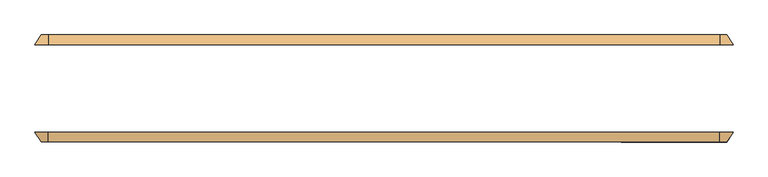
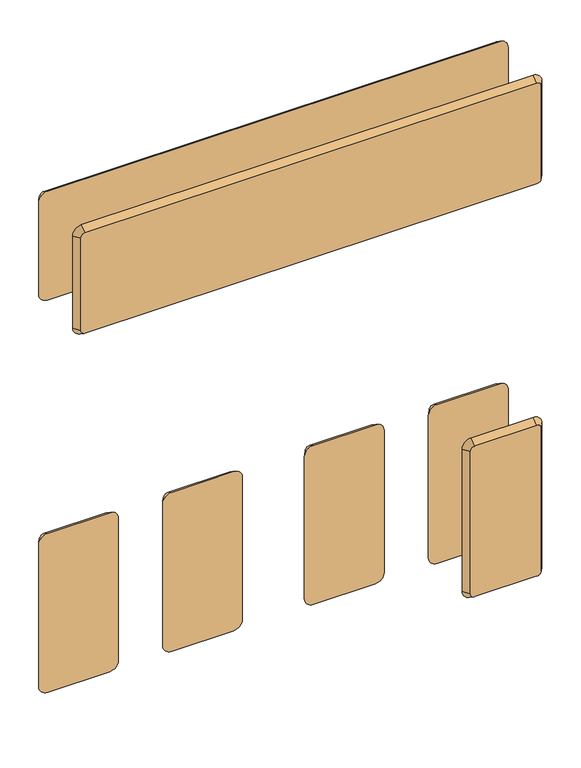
"""IFC4 building model written with IfcOpenShell, lengths in millimetres: door geometry, ETC Arabic Door : ETC Arabic Door."""

from ifc_helpers import new_model, si_unit, frame, origin, place, context, project, spatial, polyline, circle_curve, source, transform, mapped, element, save
from ifc_brep_helpers import plane_surface, revolved_surface, advanced_brep


def door_55d09108(model_context):
    return source(origin(), model_context, "Body", "AdvancedBrep", [
        advanced_brep(
        [(370.0, 25.0, 1175.0), (510.0, 25.0, 1175.0), (510.0, 10.0, 1185.0), (370.0, 10.0, 1185.0), (520.0, 10.0, 1195.0), (520.0, 10.0, 1535.0), (510.0, 10.0, 1545.0), (370.0, 10.0, 1545.0), (360.0, 10.0, 1535.0), (360.0, 10.0, 1195.0), (530.0, 25.0, 1195.0), (530.0, 25.0, 1535.0), (350.0, 25.0, 1535.0), (350.0, 25.0, 1195.0), (370.0, 25.0, 1555.0), (510.0, 25.0, 1555.0)],
        [
            (0, 1),
            (1, 2),
            (2, 3),
            (3, 0),
            (2, 4, circle_curve(frame((510.0, 10.0, 1195.0), z_axis=(0.0, -1.0, 0.0), x_axis=(0.0, 0.0, -1.0)), 10.0)),
            (4, 5),
            (5, 6, circle_curve(frame((510.0, 10.0, 1535.0), z_axis=(0.0, -1.0, 0.0), x_axis=(1.0, 0.0, 0.0)), 10.0)),
            (6, 7),
            (7, 8, circle_curve(frame((370.0, 10.0, 1535.0), z_axis=(0.0, -1.0, 0.0), x_axis=(0.0, 0.0, 1.0)), 10.0)),
            (8, 9),
            (9, 3, circle_curve(frame((370.0, 10.0, 1195.0), z_axis=(0.0, -1.0, 0.0), x_axis=(-1.0, 0.0, 0.0)), 10.0)),
            (1, 10, circle_curve(frame((510.0, 25.0, 1195.0), z_axis=(0.0, -1.0, 0.0), x_axis=(0.0, 0.0, -1.0)), 20.0)),
            (10, 4),
            (10, 11),
            (11, 5),
            (12, 13),
            (13, 9),
            (8, 12),
            (13, 0, circle_curve(frame((370.0, 25.0, 1195.0), z_axis=(0.0, -1.0, 0.0), x_axis=(-1.0, 0.0, 0.0)), 20.0)),
            (12, 14, circle_curve(frame((370.0, 25.0, 1535.0), z_axis=(0.0, 1.0, 0.0), x_axis=(0.0, 0.0, 1.0)), 20.0)),
            (14, 15),
            (15, 11, circle_curve(frame((510.0, 25.0, 1535.0), z_axis=(0.0, 1.0, 0.0), x_axis=(1.0, 0.0, 0.0)), 20.0)),
            (15, 6),
            (14, 7),
        ],
        [
            plane_surface(frame((440.0, 25.0, 1175.0), z_axis=(0.0, -0.5547001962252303, -0.832050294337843), x_axis=(1.0, 0.0, 0.0))),
            plane_surface(frame((440.0, 10.0, 1365.0), z_axis=(0.0, -1.0, 0.0), x_axis=(-1.0, 0.0, 0.0))),
            revolved_surface(polyline([(510.0, 10.0, 1185.0), (510.0, 25.0, 1175.0)]), (510.0, -5.0, 1195.0), (0.0, 1.0, 0.0)),
            plane_surface(frame((530.0, 25.0, 1365.0), z_axis=(0.8320502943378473, -0.5547001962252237, 0.0), x_axis=(0.0, 0.0, 1.0))),
            plane_surface(frame((350.0, 25.0, 1365.0), z_axis=(-0.8320502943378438, -0.5547001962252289, 0.0), x_axis=(0.0, 0.0, -1.0))),
            revolved_surface(polyline([(360.0, 10.0, 1195.0), (350.0, 25.0, 1195.0)]), (370.0, -5.0, 1195.0), (0.0, 1.0, 0.0)),
            plane_surface(frame((440.0, 25.0, 1365.0), z_axis=(0.0, 1.0, 0.0), x_axis=(-1.0, 0.0, 0.0))),
            revolved_surface(polyline([(520.0, 10.0, 1535.0), (530.0, 25.0, 1535.0)]), (510.0, -5.0, 1535.0), (0.0, 1.0, 0.0)),
            plane_surface(frame((440.0, 25.0, 1555.0), z_axis=(0.0, -0.554700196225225, 0.8320502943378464), x_axis=(-1.0, 0.0, 0.0))),
            revolved_surface(polyline([(370.0, 10.0, 1545.0), (370.0, 25.0, 1555.0)]), (370.0, -5.0, 1535.0), (0.0, 1.0, 0.0)),
        ],
        [
            (0, [[1, 2, 3, 4]]),
            (1, [[-3, 5, 6, 7, 8, 9, 10, 11]]),
            (2, [[12, 13, -5, -2]]),
            (3, [[14, 15, -6, -13]]),
            (4, [[16, 17, -10, 18]]),
            (5, [[19, -4, -11, -17]]),
            (6, [[-19, -16, 20, 21, 22, -14, -12, -1]]),
            (7, [[-22, 23, -7, -15]]),
            (8, [[-21, 24, -8, -23]]),
            (9, [[-20, -18, -9, -24]]),
        ],
    ),
        advanced_brep(
        [(-90.0, 157.5, 1175.0), (-230.0, 157.5, 1175.0), (-230.0, 172.5, 1185.0), (-90.0, 172.5, 1185.0), (-240.0, 172.5, 1195.0), (-240.0, 172.5, 1535.0), (-230.0, 172.5, 1545.0), (-90.0, 172.5, 1545.0), (-80.0, 172.5, 1535.0), (-80.0, 172.5, 1195.0), (-250.0, 157.5, 1195.0), (-250.0, 157.5, 1535.0), (-70.0, 157.5, 1535.0), (-70.0, 157.5, 1195.0), (-90.0, 157.5, 1555.0), (-230.0, 157.5, 1555.0)],
        [
            (0, 1),
            (1, 2),
            (2, 3),
            (3, 0),
            (2, 4, circle_curve(frame((-230.0, 172.5, 1195.0), z_axis=(0.0, 1.0, 0.0), x_axis=(0.0, 0.0, -1.0)), 10.0)),
            (4, 5),
            (5, 6, circle_curve(frame((-230.0, 172.5, 1535.0), z_axis=(0.0, 1.0, 0.0), x_axis=(-1.0, 0.0, 0.0)), 10.0)),
            (6, 7),
            (7, 8, circle_curve(frame((-90.0, 172.5, 1535.0), z_axis=(0.0, 1.0, 0.0), x_axis=(0.0, 0.0, 1.0)), 10.0)),
            (8, 9),
            (9, 3, circle_curve(frame((-90.0, 172.5, 1195.0), z_axis=(0.0, 1.0, 0.0), x_axis=(1.0, 0.0, 0.0)), 10.0)),
            (1, 10, circle_curve(frame((-230.0, 157.5, 1195.0), z_axis=(0.0, 1.0, 0.0), x_axis=(0.0, 0.0, -1.0)), 20.0)),
            (10, 4),
            (10, 11),
            (11, 5),
            (12, 13),
            (13, 9),
            (8, 12),
            (13, 0, circle_curve(frame((-90.0, 157.5, 1195.0), z_axis=(0.0, 1.0, 0.0), x_axis=(1.0, 0.0, 0.0)), 20.0)),
            (12, 14, circle_curve(frame((-90.0, 157.5, 1535.0), z_axis=(0.0, -1.0, 0.0), x_axis=(0.0, 0.0, 1.0)), 20.0)),
            (14, 15),
            (15, 11, circle_curve(frame((-230.0, 157.5, 1535.0), z_axis=(0.0, -1.0, 0.0), x_axis=(-1.0, 0.0, 0.0)), 20.0)),
            (15, 6),
            (14, 7),
        ],
        [
            plane_surface(frame((-160.0, 157.5, 1175.0), z_axis=(0.0, 0.5547001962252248, -0.8320502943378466), x_axis=(-1.0, 0.0, 0.0))),
            plane_surface(frame((-160.0, 172.5, 1365.0), z_axis=(0.0, 1.0, 0.0), x_axis=(1.0, 0.0, 0.0))),
            revolved_surface(polyline([(-230.0, 172.5, 1185.0), (-230.0, 157.5, 1175.0)]), (-230.0, 187.5, 1195.0), (0.0, -1.0, 0.0)),
            plane_surface(frame((-250.0, 157.5, 1365.0), z_axis=(-0.8320502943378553, 0.5547001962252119, 0.0), x_axis=(0.0, 0.0, 1.0))),
            plane_surface(frame((-70.0, 157.5, 1365.0), z_axis=(0.832050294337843, 0.55470019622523, 0.0), x_axis=(0.0, 0.0, -1.0))),
            revolved_surface(polyline([(-80.0, 172.5, 1195.0), (-70.0, 157.5, 1195.0)]), (-90.0, 187.5, 1195.0), (0.0, -1.0, 0.0)),
            plane_surface(frame((-160.0, 157.5, 1365.0), z_axis=(0.0, -1.0, 0.0), x_axis=(1.0, 0.0, 0.0))),
            revolved_surface(polyline([(-240.0, 172.5, 1535.0), (-250.0, 157.5, 1535.0)]), (-230.0, 187.5, 1535.0), (0.0, -1.0, 0.0)),
            plane_surface(frame((-160.0, 157.5, 1555.0), z_axis=(0.0, 0.5547001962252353, 0.8320502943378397), x_axis=(1.0, 0.0, 0.0))),
            revolved_surface(polyline([(-90.0, 172.5, 1545.0), (-90.0, 157.5, 1555.0)]), (-90.0, 187.5, 1535.0), (0.0, -1.0, 0.0)),
        ],
        [
            (0, [[1, 2, 3, 4]]),
            (1, [[-3, 5, 6, 7, 8, 9, 10, 11]]),
            (2, [[12, 13, -5, -2]]),
            (3, [[14, 15, -6, -13]]),
            (4, [[16, 17, -10, 18]]),
            (5, [[19, -4, -11, -17]]),
            (6, [[-19, -16, 20, 21, 22, -14, -12, -1]]),
            (7, [[-22, 23, -7, -15]]),
            (8, [[-21, 24, -8, -23]]),
            (9, [[-20, -18, -9, -24]]),
        ],
    ),
        advanced_brep(
        [(-370.0, 157.5, 1175.0), (-510.0, 157.5, 1175.0), (-510.0, 172.5, 1185.0), (-370.0, 172.5, 1185.0), (-520.0, 172.5, 1195.0), (-520.0, 172.5, 1535.0), (-510.0, 172.5, 1545.0), (-370.0, 172.5, 1545.0), (-360.0, 172.5, 1535.0), (-360.0, 172.5, 1195.0), (-530.0, 157.5, 1195.0), (-530.0, 157.5, 1535.0), (-350.0, 157.5, 1535.0), (-350.0, 157.5, 1195.0), (-370.0, 157.5, 1555.0), (-510.0, 157.5, 1555.0)],
        [
            (0, 1),
            (1, 2),
            (2, 3),
            (3, 0),
            (2, 4, circle_curve(frame((-510.0, 172.5, 1195.0), z_axis=(0.0, 1.0, 0.0), x_axis=(0.0, 0.0, -1.0)), 10.0)),
            (4, 5),
            (5, 6, circle_curve(frame((-510.0, 172.5, 1535.0), z_axis=(0.0, 1.0, 0.0), x_axis=(-1.0, 0.0, 0.0)), 10.0)),
            (6, 7),
            (7, 8, circle_curve(frame((-370.0, 172.5, 1535.0), z_axis=(0.0, 1.0, 0.0), x_axis=(0.0, 0.0, 1.0)), 10.0)),
            (8, 9),
            (9, 3, circle_curve(frame((-370.0, 172.5, 1195.0), z_axis=(0.0, 1.0, 0.0), x_axis=(1.0, 0.0, 0.0)), 10.0)),
            (1, 10, circle_curve(frame((-510.0, 157.5, 1195.0), z_axis=(0.0, 1.0, 0.0), x_axis=(0.0, 0.0, -1.0)), 20.0)),
            (10, 4),
            (10, 11),
            (11, 5),
            (12, 13),
            (13, 9),
            (8, 12),
            (13, 0, circle_curve(frame((-370.0, 157.5, 1195.0), z_axis=(0.0, 1.0, 0.0), x_axis=(1.0, 0.0, 0.0)), 20.0)),
            (12, 14, circle_curve(frame((-370.0, 157.5, 1535.0), z_axis=(0.0, -1.0, 0.0), x_axis=(0.0, 0.0, 1.0)), 20.0)),
            (14, 15),
            (15, 11, circle_curve(frame((-510.0, 157.5, 1535.0), z_axis=(0.0, -1.0, 0.0), x_axis=(-1.0, 0.0, 0.0)), 20.0)),
            (15, 6),
            (14, 7),
        ],
        [
            plane_surface(frame((-440.0, 157.5, 1175.0), z_axis=(0.0, 0.5547001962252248, -0.8320502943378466), x_axis=(-1.0, 0.0, 0.0))),
            plane_surface(frame((-440.0, 172.5, 1365.0), z_axis=(0.0, 1.0, 0.0), x_axis=(1.0, 0.0, 0.0))),
            revolved_surface(polyline([(-510.0, 172.5, 1185.0), (-510.0, 157.5, 1175.0)]), (-510.0, 187.5, 1195.0), (0.0, -1.0, 0.0)),
            plane_surface(frame((-530.0, 157.5, 1365.0), z_axis=(-0.8320502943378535, 0.5547001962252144, 0.0), x_axis=(0.0, 0.0, 1.0))),
            plane_surface(frame((-350.0, 157.5, 1365.0), z_axis=(0.832050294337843, 0.55470019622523, 0.0), x_axis=(0.0, 0.0, -1.0))),
            revolved_surface(polyline([(-360.0, 172.5, 1195.0), (-350.0, 157.5, 1195.0)]), (-370.0, 187.5, 1195.0), (0.0, -1.0, 0.0)),
            plane_surface(frame((-440.0, 157.5, 1365.0), z_axis=(0.0, -1.0, 0.0), x_axis=(1.0, 0.0, 0.0))),
            revolved_surface(polyline([(-520.0, 172.5, 1535.0), (-530.0, 157.5, 1535.0)]), (-510.0, 187.5, 1535.0), (0.0, -1.0, 0.0)),
            plane_surface(frame((-440.0, 157.5, 1555.0), z_axis=(0.0, 0.5547001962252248, 0.8320502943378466), x_axis=(1.0, 0.0, 0.0))),
            revolved_surface(polyline([(-370.0, 172.5, 1545.0), (-370.0, 157.5, 1555.0)]), (-370.0, 187.5, 1535.0), (0.0, -1.0, 0.0)),
        ],
        [
            (0, [[1, 2, 3, 4]]),
            (1, [[-3, 5, 6, 7, 8, 9, 10, 11]]),
            (2, [[12, 13, -5, -2]]),
            (3, [[14, 15, -6, -13]]),
            (4, [[16, 17, -10, 18]]),
            (5, [[19, -4, -11, -17]]),
            (6, [[-19, -16, 20, 21, 22, -14, -12, -1]]),
            (7, [[-22, 23, -7, -15]]),
            (8, [[-21, 24, -8, -23]]),
            (9, [[-20, -18, -9, -24]]),
        ],
    ),
        advanced_brep(
        [(90.0, 157.5, 1175.0), (70.0, 157.5, 1195.0), (80.0, 172.5, 1195.0), (90.0, 172.5, 1185.0), (80.0, 172.5, 1535.0), (90.0, 172.5, 1545.0), (230.0, 172.5, 1545.0), (240.0, 172.5, 1535.0), (240.0, 172.5, 1195.0), (230.0, 172.5, 1185.0), (70.0, 157.5, 1535.0), (250.0, 157.5, 1535.0), (250.0, 157.5, 1195.0), (230.0, 157.5, 1175.0), (230.0, 157.5, 1555.0), (90.0, 157.5, 1555.0)],
        [
            (0, 1, circle_curve(frame((90.0, 157.5, 1195.0), z_axis=(0.0, 1.0, 0.0), x_axis=(0.0, 0.0, -1.0)), 20.0)),
            (1, 2),
            (2, 3, circle_curve(frame((90.0, 172.5, 1195.0), z_axis=(0.0, -1.0, 0.0), x_axis=(0.0, 0.0, -1.0)), 10.0)),
            (3, 0),
            (2, 4),
            (4, 5, circle_curve(frame((90.0, 172.5, 1535.0), z_axis=(0.0, 1.0, 0.0), x_axis=(-1.0, 0.0, 0.0)), 10.0)),
            (5, 6),
            (6, 7, circle_curve(frame((230.0, 172.5, 1535.0), z_axis=(0.0, 1.0, 0.0), x_axis=(0.0, 0.0, 1.0)), 10.0)),
            (7, 8),
            (8, 9, circle_curve(frame((230.0, 172.5, 1195.0), z_axis=(0.0, 1.0, 0.0), x_axis=(1.0, 0.0, 0.0)), 10.0)),
            (9, 3),
            (1, 10),
            (10, 4),
            (11, 12),
            (12, 8),
            (7, 11),
            (12, 13, circle_curve(frame((230.0, 157.5, 1195.0), z_axis=(0.0, 1.0, 0.0), x_axis=(1.0, 0.0, 0.0)), 20.0)),
            (13, 9),
            (13, 0),
            (11, 14, circle_curve(frame((230.0, 157.5, 1535.0), z_axis=(0.0, -1.0, 0.0), x_axis=(0.0, 0.0, 1.0)), 20.0)),
            (14, 15),
            (15, 10, circle_curve(frame((90.0, 157.5, 1535.0), z_axis=(0.0, -1.0, 0.0), x_axis=(-1.0, 0.0, 0.0)), 20.0)),
            (15, 5),
            (14, 6),
        ],
        [
            revolved_surface(polyline([(90.0, 172.5, 1185.0), (90.0, 157.5, 1175.0)]), (90.0, 187.5, 1195.0), (0.0, -1.0, 0.0)),
            plane_surface(frame((160.0, 172.5, 1365.0), z_axis=(0.0, 1.0, 0.0), x_axis=(1.0, 0.0, 0.0))),
            plane_surface(frame((70.0, 157.5, 1365.0), z_axis=(-0.832050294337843, 0.55470019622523, 0.0), x_axis=(0.0, 0.0, 1.0))),
            plane_surface(frame((250.0, 157.5, 1365.0), z_axis=(0.8320502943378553, 0.5547001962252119, 0.0), x_axis=(0.0, 0.0, -1.0))),
            revolved_surface(polyline([(240.0, 172.5, 1195.0), (250.0, 157.5, 1195.0)]), (230.0, 187.5, 1195.0), (0.0, -1.0, 0.0)),
            plane_surface(frame((160.0, 157.5, 1175.0), z_axis=(0.0, 0.55470019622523, -0.832050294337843), x_axis=(-1.0, 0.0, 0.0))),
            plane_surface(frame((160.0, 157.5, 1365.0), z_axis=(0.0, -1.0, 0.0), x_axis=(1.0, 0.0, 0.0))),
            revolved_surface(polyline([(80.0, 172.5, 1535.0), (70.0, 157.5, 1535.0)]), (90.0, 187.5, 1535.0), (0.0, -1.0, 0.0)),
            plane_surface(frame((160.0, 157.5, 1555.0), z_axis=(0.0, 0.5547001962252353, 0.8320502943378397), x_axis=(1.0, 0.0, 0.0))),
            revolved_surface(polyline([(230.0, 172.5, 1545.0), (230.0, 157.5, 1555.0)]), (230.0, 187.5, 1535.0), (0.0, -1.0, 0.0)),
        ],
        [
            (0, [[1, 2, 3, 4]]),
            (1, [[-3, 5, 6, 7, 8, 9, 10, 11]]),
            (2, [[12, 13, -5, -2]]),
            (3, [[14, 15, -9, 16]]),
            (4, [[17, 18, -10, -15]]),
            (5, [[19, -4, -11, -18]]),
            (6, [[-19, -17, -14, 20, 21, 22, -12, -1]]),
            (7, [[-22, 23, -6, -13]]),
            (8, [[-21, 24, -7, -23]]),
            (9, [[-20, -16, -8, -24]]),
        ],
    ),
        advanced_brep(
        [(370.0, 157.5, 1175.0), (350.0, 157.5, 1195.0), (360.0, 172.5, 1195.0), (370.0, 172.5, 1185.0), (360.0, 172.5, 1535.0), (370.0, 172.5, 1545.0), (510.0, 172.5, 1545.0), (520.0, 172.5, 1535.0), (520.0, 172.5, 1195.0), (510.0, 172.5, 1185.0), (350.0, 157.5, 1535.0), (530.0, 157.5, 1535.0), (530.0, 157.5, 1195.0), (510.0, 157.5, 1175.0), (510.0, 157.5, 1555.0), (370.0, 157.5, 1555.0)],
        [
            (0, 1, circle_curve(frame((370.0, 157.5, 1195.0), z_axis=(0.0, 1.0, 0.0), x_axis=(0.0, 0.0, -1.0)), 20.0)),
            (1, 2),
            (2, 3, circle_curve(frame((370.0, 172.5, 1195.0), z_axis=(0.0, -1.0, 0.0), x_axis=(0.0, 0.0, -1.0)), 10.0)),
            (3, 0),
            (2, 4),
            (4, 5, circle_curve(frame((370.0, 172.5, 1535.0), z_axis=(0.0, 1.0, 0.0), x_axis=(-1.0, 0.0, 0.0)), 10.0)),
            (5, 6),
            (6, 7, circle_curve(frame((510.0, 172.5, 1535.0), z_axis=(0.0, 1.0, 0.0), x_axis=(0.0, 0.0, 1.0)), 10.0)),
            (7, 8),
            (8, 9, circle_curve(frame((510.0, 172.5, 1195.0), z_axis=(0.0, 1.0, 0.0), x_axis=(1.0, 0.0, 0.0)), 10.0)),
            (9, 3),
            (1, 10),
            (10, 4),
            (11, 12),
            (12, 8),
            (7, 11),
            (12, 13, circle_curve(frame((510.0, 157.5, 1195.0), z_axis=(0.0, 1.0, 0.0), x_axis=(1.0, 0.0, 0.0)), 20.0)),
            (13, 9),
            (13, 0),
            (11, 14, circle_curve(frame((510.0, 157.5, 1535.0), z_axis=(0.0, -1.0, 0.0), x_axis=(0.0, 0.0, 1.0)), 20.0)),
            (14, 15),
            (15, 10, circle_curve(frame((370.0, 157.5, 1535.0), z_axis=(0.0, -1.0, 0.0), x_axis=(-1.0, 0.0, 0.0)), 20.0)),
            (15, 5),
            (14, 6),
        ],
        [
            revolved_surface(polyline([(370.0, 172.5, 1185.0), (370.0, 157.5, 1175.0)]), (370.0, 187.5, 1195.0), (0.0, -1.0, 0.0)),
            plane_surface(frame((440.0, 172.5, 1365.0), z_axis=(0.0, 1.0, 0.0), x_axis=(1.0, 0.0, 0.0))),
            plane_surface(frame((350.0, 157.5, 1365.0), z_axis=(-0.832050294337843, 0.55470019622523, 0.0), x_axis=(0.0, 0.0, 1.0))),
            plane_surface(frame((530.0, 157.5, 1365.0), z_axis=(0.8320502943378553, 0.5547001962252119, 0.0), x_axis=(0.0, 0.0, -1.0))),
            revolved_surface(polyline([(520.0, 172.5, 1195.0), (530.0, 157.5, 1195.0)]), (510.0, 187.5, 1195.0), (0.0, -1.0, 0.0)),
            plane_surface(frame((440.0, 157.5, 1175.0), z_axis=(0.0, 0.5547001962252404, -0.8320502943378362), x_axis=(-1.0, 0.0, 0.0))),
            plane_surface(frame((440.0, 157.5, 1365.0), z_axis=(0.0, -1.0, 0.0), x_axis=(1.0, 0.0, 0.0))),
            revolved_surface(polyline([(360.0, 172.5, 1535.0), (350.0, 157.5, 1535.0)]), (370.0, 187.5, 1535.0), (0.0, -1.0, 0.0)),
            plane_surface(frame((440.0, 157.5, 1555.0), z_axis=(0.0, 0.5547001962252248, 0.8320502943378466), x_axis=(1.0, 0.0, 0.0))),
            revolved_surface(polyline([(510.0, 172.5, 1545.0), (510.0, 157.5, 1555.0)]), (510.0, 187.5, 1535.0), (0.0, -1.0, 0.0)),
        ],
        [
            (0, [[1, 2, 3, 4]]),
            (1, [[-3, 5, 6, 7, 8, 9, 10, 11]]),
            (2, [[12, 13, -5, -2]]),
            (3, [[14, 15, -9, 16]]),
            (4, [[17, 18, -10, -15]]),
            (5, [[19, -4, -11, -18]]),
            (6, [[-19, -17, -14, 20, 21, 22, -12, -1]]),
            (7, [[-22, 23, -6, -13]]),
            (8, [[-21, 24, -7, -23]]),
            (9, [[-20, -16, -8, -24]]),
        ],
    ),
        advanced_brep(
        [(530.0, 25.0, 2132.5470794), (530.0, 25.0, 2352.5470794), (520.0, 10.0, 2352.5470794), (520.0, 10.0, 2132.5470794), (510.0, 10.0, 2362.5470794), (-510.0, 10.0, 2362.5470794), (-520.0, 10.0, 2352.5470794), (-520.0, 10.0, 2132.5470794), (-510.0, 10.0, 2122.5470794), (510.0, 10.0, 2122.5470794), (510.0, 25.0, 2372.5470794), (-510.0, 25.0, 2372.5470794), (-530.0, 25.0, 2352.5470794), (-530.0, 25.0, 2132.5470794), (510.0, 25.0, 2112.5470794), (-510.0, 25.0, 2112.5470794)],
        [
            (0, 1),
            (1, 2),
            (2, 3),
            (3, 0),
            (2, 4, circle_curve(frame((510.0, 10.0, 2352.5470794), z_axis=(0.0, -1.0, 0.0), x_axis=(1.0, 0.0, 0.0)), 10.0)),
            (4, 5),
            (5, 6, circle_curve(frame((-510.0, 10.0, 2352.5470794), z_axis=(0.0, -1.0, 0.0), x_axis=(0.0, 0.0, 1.0)), 10.0)),
            (6, 7),
            (7, 8, circle_curve(frame((-510.0, 10.0, 2132.5470794), z_axis=(0.0, -1.0, 0.0), x_axis=(-1.0, 0.0, 0.0)), 10.0)),
            (8, 9),
            (9, 3, circle_curve(frame((510.0, 10.0, 2132.5470794), z_axis=(0.0, -1.0, 0.0), x_axis=(0.0, 0.0, -1.0)), 10.0)),
            (1, 10, circle_curve(frame((510.0, 25.0, 2352.5470794), z_axis=(0.0, -1.0, 0.0), x_axis=(1.0, 0.0, 0.0)), 20.0)),
            (10, 4),
            (10, 11),
            (11, 5),
            (11, 12, circle_curve(frame((-510.0, 25.0, 2352.5470794), z_axis=(0.0, -1.0, 0.0), x_axis=(0.0, 0.0, 1.0)), 20.0)),
            (12, 6),
            (12, 13),
            (13, 7),
            (0, 14, circle_curve(frame((510.0, 25.0, 2132.5470794), z_axis=(0.0, 1.0, 0.0), x_axis=(0.0, 0.0, -1.0)), 20.0)),
            (14, 15),
            (15, 13, circle_curve(frame((-510.0, 25.0, 2132.5470794), z_axis=(0.0, 1.0, 0.0), x_axis=(-1.0, 0.0, 0.0)), 20.0)),
            (15, 8),
            (14, 9),
        ],
        [
            plane_surface(frame((530.0, 25.0, 2242.5470794), z_axis=(0.83205029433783, -0.5547001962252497, 0.0), x_axis=(0.0, 0.0, 1.0))),
            plane_surface(frame((0.0, 10.0, 2242.5470794), z_axis=(0.0, -1.0, 0.0), x_axis=(-1.0, 0.0, 0.0))),
            revolved_surface(polyline([(520.0, 10.0, 2352.5470794), (530.0, 25.0, 2352.5470794)]), (510.0, -5.0, 2352.5470794), (0.0, 1.0, 0.0)),
            plane_surface(frame((0.0, 25.0, 2372.5470794), z_axis=(0.0, -0.554700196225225, 0.8320502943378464), x_axis=(-1.0, 0.0, 0.0))),
            revolved_surface(polyline([(-510.0, 10.0, 2362.5470794), (-510.0, 25.0, 2372.5470794)]), (-510.0, -5.0, 2352.5470794), (0.0, 1.0, 0.0)),
            plane_surface(frame((-530.0, 25.0, 2242.5470794), z_axis=(-0.8320502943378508, -0.5547001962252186, 0.0), x_axis=(0.0, 0.0, -1.0))),
            plane_surface(frame((0.0, 25.0, 2242.5470794), z_axis=(0.0, 1.0, 0.0), x_axis=(-1.0, 0.0, 0.0))),
            revolved_surface(polyline([(-520.0, 10.0, 2132.5470794), (-530.0, 25.0, 2132.5470794)]), (-510.0, -5.0, 2132.5470794), (0.0, 1.0, 0.0)),
            plane_surface(frame((0.0, 25.0, 2112.5470794), z_axis=(0.0, -0.554700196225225, -0.8320502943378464), x_axis=(1.0, 0.0, 0.0))),
            revolved_surface(polyline([(510.0, 10.0, 2122.5470794), (510.0, 25.0, 2112.5470794)]), (510.0, -5.0, 2132.5470794), (0.0, 1.0, 0.0)),
        ],
        [
            (0, [[1, 2, 3, 4]]),
            (1, [[-3, 5, 6, 7, 8, 9, 10, 11]]),
            (2, [[12, 13, -5, -2]]),
            (3, [[14, 15, -6, -13]]),
            (4, [[16, 17, -7, -15]]),
            (5, [[18, 19, -8, -17]]),
            (6, [[20, 21, 22, -18, -16, -14, -12, -1]]),
            (7, [[-22, 23, -9, -19]]),
            (8, [[-21, 24, -10, -23]]),
            (9, [[-20, -4, -11, -24]]),
        ],
    ),
        advanced_brep(
        [(-530.0, 157.5, 2132.5470794), (-530.0, 157.5, 2352.5470794), (-520.0, 172.5, 2352.5470794), (-520.0, 172.5, 2132.5470794), (520.0, 172.5, 2132.5470794), (510.0, 172.5, 2122.5470794), (-510.0, 172.5, 2122.5470794), (-510.0, 172.5, 2362.5470794), (510.0, 172.5, 2362.5470794), (520.0, 172.5, 2352.5470794), (-510.0, 157.5, 2372.5470794), (510.0, 157.5, 2372.5470794), (530.0, 157.5, 2352.5470794), (530.0, 157.5, 2132.5470794), (-510.0, 157.5, 2112.5470794), (510.0, 157.5, 2112.5470794)],
        [
            (0, 1),
            (1, 2),
            (2, 3),
            (3, 0),
            (4, 5, circle_curve(frame((510.0, 172.5, 2132.5470794), z_axis=(0.0, 1.0, 0.0), x_axis=(1.0, 0.0, 0.0)), 10.0)),
            (5, 6),
            (6, 3, circle_curve(frame((-510.0, 172.5, 2132.5470794), z_axis=(0.0, 1.0, 0.0), x_axis=(0.0, 0.0, -1.0)), 10.0)),
            (2, 7, circle_curve(frame((-510.0, 172.5, 2352.5470794), z_axis=(0.0, 1.0, 0.0), x_axis=(-1.0, 0.0, 0.0)), 10.0)),
            (7, 8),
            (8, 9, circle_curve(frame((510.0, 172.5, 2352.5470794), z_axis=(0.0, 1.0, 0.0), x_axis=(0.0, 0.0, 1.0)), 10.0)),
            (9, 4),
            (1, 10, circle_curve(frame((-510.0, 157.5, 2352.5470794), z_axis=(0.0, 1.0, 0.0), x_axis=(-1.0, 0.0, 0.0)), 20.0)),
            (10, 7),
            (10, 11),
            (11, 8),
            (11, 12, circle_curve(frame((510.0, 157.5, 2352.5470794), z_axis=(0.0, 1.0, 0.0), x_axis=(0.0, 0.0, 1.0)), 20.0)),
            (12, 9),
            (12, 13),
            (13, 4),
            (0, 14, circle_curve(frame((-510.0, 157.5, 2132.5470794), z_axis=(0.0, -1.0, 0.0), x_axis=(0.0, 0.0, -1.0)), 20.0)),
            (14, 15),
            (15, 13, circle_curve(frame((510.0, 157.5, 2132.5470794), z_axis=(0.0, -1.0, 0.0), x_axis=(1.0, 0.0, 0.0)), 20.0)),
            (15, 5),
            (14, 6),
        ],
        [
            plane_surface(frame((-530.0, 157.5, 2242.5470794), z_axis=(-0.8320502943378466, 0.5547001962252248, 0.0), x_axis=(0.0, 0.0, 1.0))),
            plane_surface(frame((0.0, 172.5, 2242.5470794), z_axis=(0.0, 1.0, 0.0), x_axis=(1.0, 0.0, 0.0))),
            revolved_surface(polyline([(-520.0, 172.5, 2352.5470794), (-530.0, 157.5, 2352.5470794)]), (-510.0, 187.5, 2352.5470794), (0.0, -1.0, 0.0)),
            plane_surface(frame((0.0, 157.5, 2372.5470794), z_axis=(0.0, 0.5547001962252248, 0.8320502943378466), x_axis=(1.0, 0.0, 0.0))),
            revolved_surface(polyline([(510.0, 172.5, 2362.5470794), (510.0, 157.5, 2372.5470794)]), (510.0, 187.5, 2352.5470794), (0.0, -1.0, 0.0)),
            plane_surface(frame((530.0, 157.5, 2242.5470794), z_axis=(0.8320502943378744, 0.5547001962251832, 0.0), x_axis=(0.0, 0.0, -1.0))),
            plane_surface(frame((0.0, 157.5, 2242.5470794), z_axis=(0.0, -1.0, 0.0), x_axis=(1.0, 0.0, 0.0))),
            revolved_surface(polyline([(520.0, 172.5, 2132.5470794), (530.0, 157.5, 2132.5470794)]), (510.0, 187.5, 2132.5470794), (0.0, -1.0, 0.0)),
            plane_surface(frame((0.0, 157.5, 2112.5470794), z_axis=(0.0, 0.5547001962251, -0.8320502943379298), x_axis=(-1.0, 0.0, 0.0))),
            revolved_surface(polyline([(-510.0, 172.5, 2122.5470794), (-510.0, 157.5, 2112.5470794)]), (-510.0, 187.5, 2132.5470794), (0.0, -1.0, 0.0)),
        ],
        [
            (0, [[1, 2, 3, 4]]),
            (1, [[5, 6, 7, -3, 8, 9, 10, 11]]),
            (2, [[12, 13, -8, -2]]),
            (3, [[14, 15, -9, -13]]),
            (4, [[16, 17, -10, -15]]),
            (5, [[18, 19, -11, -17]]),
            (6, [[-18, -16, -14, -12, -1, 20, 21, 22]]),
            (7, [[-22, 23, -5, -19]]),
            (8, [[-21, 24, -6, -23]]),
            (9, [[-20, -4, -7, -24]]),
        ],
    ),
    ])


if __name__ == "__main__":
    model = new_model("IFC4")
    model_context = context("Model", 3, world=origin())
    ifc_project = project(units=[si_unit("LENGTHUNIT", "METRE", prefix="MILLI")], contexts=[model_context])
    site = spatial("IfcSite", under=ifc_project)
    building = spatial("IfcBuilding", under=site)
    placement = place(None, origin())
    door_shape = door_55d09108(model_context)
    element("IfcDoor", 1, ObjectType="ETC Arabic Door : ETC Arabic Door", at=placement, inside=building, context=model_context, shape_type="MappedRepresentation", body=[
        mapped(door_shape, transform((0.0, 0.0, 0.0), x_axis=(1.0, 0.0, 0.0), y_axis=(0.0, 1.0, 0.0), z_axis=(0.0, 0.0, 1.0))),
    ])
    save(model, "model.ifc")
